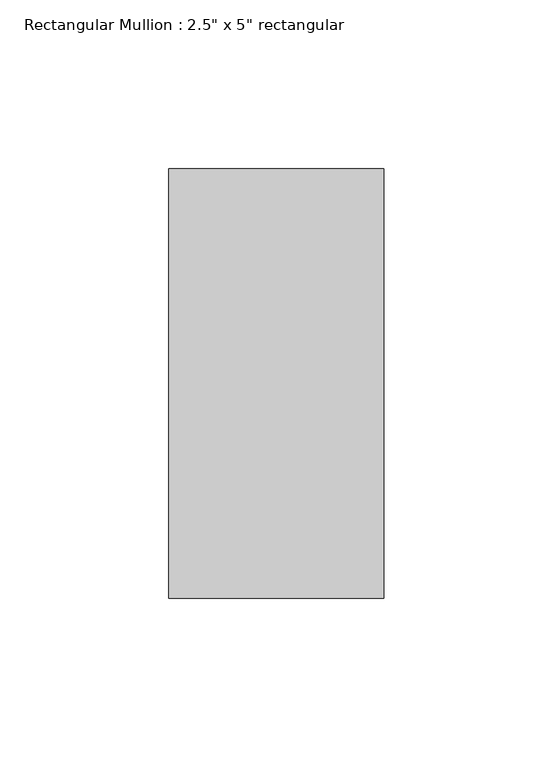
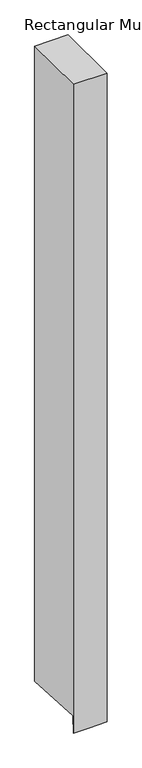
"""IFC4 building model written with IfcOpenShell, lengths in millimetres: member geometry."""

from ifc_helpers import new_model, si_unit, origin, place, context, project, spatial, faceted_brep, source, transform, mapped, element, save


def member_00cc34e7(model_context):
    return source(origin(), model_context, "Body", "Brep", [
        faceted_brep([(31.75, 63.5, 0.0), (-31.75, 63.5, 0.0), (-31.75, -63.5, 0.0), (31.75, -63.5, 0.0), (31.75, 63.5, -1271.9762757), (0.0, 63.5, -1271.9762757), (-31.75, 63.5, -1271.9762757), (-31.75, -61.5532406, -1264.7167653), (-31.75, -63.5, -1298.2518872), (0.0, -63.5, -1298.2518872), (31.75, -63.5, -1298.2518872), (31.75, -61.5532406, -1264.7167653), (0.0, -61.5532406, -1264.7167653)], [[[0, 1, 2, 3]], [[1, 0, 4, 5, 6]], [[2, 1, 6, 7, 8]], [[3, 2, 8, 9, 10]], [[0, 3, 10, 11, 4]], [[4, 11, 12, 5]], [[11, 10, 9, 12]], [[9, 8, 7, 12]], [[7, 6, 5, 12]]]),
    ])


if __name__ == "__main__":
    model = new_model("IFC4")
    model_context = context("Model", 3, world=origin())
    ifc_project = project(units=[si_unit("LENGTHUNIT", "METRE", prefix="MILLI")], contexts=[model_context])
    site = spatial("IfcSite", under=ifc_project)
    building = spatial("IfcBuilding", under=site)
    placement = place(None, origin())
    member_shape = member_00cc34e7(model_context)
    element("IfcMember", 1, ObjectType="Rectangular Mullion : 2.5\" x 5\" rectangular", at=placement, inside=building, context=model_context, shape_type="MappedRepresentation", body=[
        mapped(member_shape, transform((0.0, 0.0, 0.0), x_axis=(1.0, 0.0, 0.0), y_axis=(0.0, 1.0, 0.0), z_axis=(0.0, 0.0, 1.0))),
    ])
    save(model, "model.ifc")
